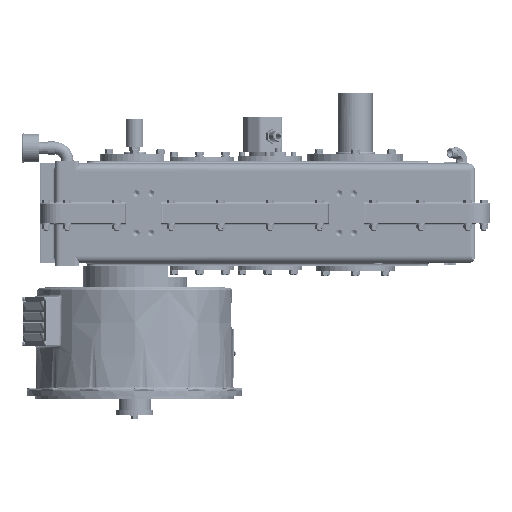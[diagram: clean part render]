
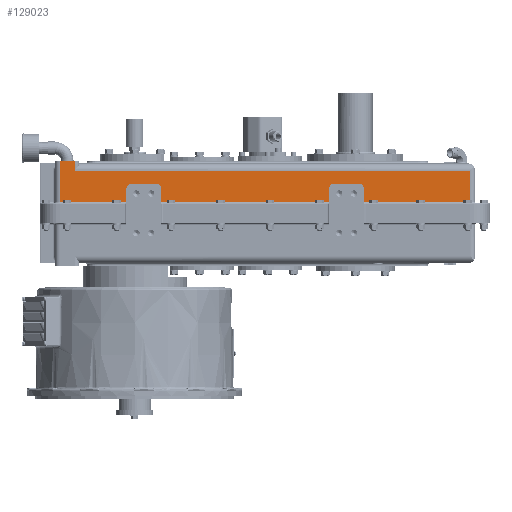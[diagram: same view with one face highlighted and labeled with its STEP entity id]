
A CAD part, left-side view. The second image highlights one B-rep face of the part: STEP entity #129023.
In plain terms, the highlighted planar face has unit normal (-1, 0, 0) as drawn and (1, 0, 0) by its records, which use the part's own axes.
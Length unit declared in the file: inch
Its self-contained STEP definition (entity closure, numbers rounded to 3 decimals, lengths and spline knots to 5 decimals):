
#384 = EDGE_LOOP ( 'NONE', ( #59105, #201633, #16348, #47771, #48266, #5329, #79999, #89331, #38875, #19079, #115549, #112892, #156235, #118846, #17127, #188760, #78254, #51868 ) ) ;
#1644 = CARTESIAN_POINT ( 'NONE',  ( 9.125, 28.25, -5.3 ) ) ;
#1942 = CARTESIAN_POINT ( 'NONE',  ( 9.125, 2.5, -1.18 ) ) ;
#2906 = EDGE_CURVE ( 'NONE', #36269, #20297, #12314, .T. ) ;
#4111 = VERTEX_POINT ( 'NONE', #45304 ) ;
#5329 = ORIENTED_EDGE ( 'NONE', *, *, #103892, .F. ) ;
#6883 = VERTEX_POINT ( 'NONE', #176033 ) ;
#7391 = DIRECTION ( 'NONE',  ( 0., -1., 0. ) ) ;
#7969 = CARTESIAN_POINT ( 'NONE',  ( 9.125, 19.5, -1.18 ) ) ;
#10279 = EDGE_CURVE ( 'NONE', #87629, #105983, #17246, .T. ) ;
#11208 = CARTESIAN_POINT ( 'NONE',  ( 9.125, -11.75, -4.302 ) ) ;
#11800 = DIRECTION ( 'NONE',  ( -1., 0., 0. ) ) ;
#12314 = LINE ( 'NONE', #106544, #191045 ) ;
#15383 = DIRECTION ( 'NONE',  ( 0., 0., -1. ) ) ;
#16348 = ORIENTED_EDGE ( 'NONE', *, *, #61049, .T. ) ;
#16395 = CARTESIAN_POINT ( 'NONE',  ( 9.125, 2.5, -1.18 ) ) ;
#17127 = ORIENTED_EDGE ( 'NONE', *, *, #144001, .F. ) ;
#17246 = LINE ( 'NONE', #79691, #142759 ) ;
#18007 = CIRCLE ( 'NONE', #145657, 0.5 ) ;
#18261 = DIRECTION ( 'NONE',  ( 0., -1., 0. ) ) ;
#19079 = ORIENTED_EDGE ( 'NONE', *, *, #115903, .T. ) ;
#20297 = VERTEX_POINT ( 'NONE', #167078 ) ;
#22760 = CARTESIAN_POINT ( 'NONE',  ( 9.125, 22.5, -3. ) ) ;
#23586 = VERTEX_POINT ( 'NONE', #129955 ) ;
#28077 = DIRECTION ( 'NONE',  ( 1., 0., 0. ) ) ;
#28992 = VECTOR ( 'NONE', #98142, 39.37008 ) ;
#35178 = CARTESIAN_POINT ( 'NONE',  ( 9.125, -0.5, -3. ) ) ;
#36269 = VERTEX_POINT ( 'NONE', #196166 ) ;
#36356 = DIRECTION ( 'NONE',  ( -1., 0., 0. ) ) ;
#37261 = EDGE_CURVE ( 'NONE', #112410, #76443, #133958, .T. ) ;
#38875 = ORIENTED_EDGE ( 'NONE', *, *, #125697, .T. ) ;
#40402 = DIRECTION ( 'NONE',  ( 0., 1., 0. ) ) ;
#42240 = DIRECTION ( 'NONE',  ( 0., 1., 0. ) ) ;
#42848 = VERTEX_POINT ( 'NONE', #51719 ) ;
#45280 = LINE ( 'NONE', #187770, #54015 ) ;
#45304 = CARTESIAN_POINT ( 'NONE',  ( 9.125, 28.25, -4.302 ) ) ;
#46179 = AXIS2_PLACEMENT_3D ( 'NONE', #138607, #60696, #42240 ) ;
#47771 = ORIENTED_EDGE ( 'NONE', *, *, #98878, .T. ) ;
#48266 = ORIENTED_EDGE ( 'NONE', *, *, #151525, .T. ) ;
#49407 = EDGE_CURVE ( 'NONE', #156334, #157165, #196264, .T. ) ;
#51064 = EDGE_CURVE ( 'NONE', #186577, #36269, #190786, .T. ) ;
#51719 = CARTESIAN_POINT ( 'NONE',  ( 9.125, -1., -2.5 ) ) ;
#51868 = ORIENTED_EDGE ( 'NONE', *, *, #159013, .T. ) ;
#53152 = CARTESIAN_POINT ( 'NONE',  ( 9.125, 29.75, -1.18 ) ) ;
#53409 = EDGE_CURVE ( 'NONE', #87629, #42848, #154585, .T. ) ;
#54015 = VECTOR ( 'NONE', #92444, 39.37008 ) ;
#56376 = VECTOR ( 'NONE', #162807, 39.37008 ) ;
#58077 = CARTESIAN_POINT ( 'NONE',  ( 9.125, 19.5, -1.18 ) ) ;
#58126 = CARTESIAN_POINT ( 'NONE',  ( 9.125, 19.5, -1.18 ) ) ;
#59105 = ORIENTED_EDGE ( 'NONE', *, *, #51064, .T. ) ;
#60696 = DIRECTION ( 'NONE',  ( -1., 0., 0. ) ) ;
#61027 = VECTOR ( 'NONE', #196497, 39.37008 ) ;
#61049 = EDGE_CURVE ( 'NONE', #20297, #6883, #82176, .T. ) ;
#62762 = EDGE_CURVE ( 'NONE', #67614, #105983, #179216, .T. ) ;
#67614 = VERTEX_POINT ( 'NONE', #11208 ) ;
#71189 = VECTOR ( 'NONE', #7391, 39.37008 ) ;
#72219 = CARTESIAN_POINT ( 'NONE',  ( 9.125, 20., -2.5 ) ) ;
#74967 = CARTESIAN_POINT ( 'NONE',  ( 9.125, 2., -3. ) ) ;
#76193 = CARTESIAN_POINT ( 'NONE',  ( 9.125, 20., -3. ) ) ;
#76443 = VERTEX_POINT ( 'NONE', #16395 ) ;
#78254 = ORIENTED_EDGE ( 'NONE', *, *, #49407, .T. ) ;
#79691 = CARTESIAN_POINT ( 'NONE',  ( 9.125, -1., -1.18 ) ) ;
#79999 = ORIENTED_EDGE ( 'NONE', *, *, #37261, .T. ) ;
#80363 = VECTOR ( 'NONE', #18261, 39.37008 ) ;
#82176 = CIRCLE ( 'NONE', #46179, 0.5 ) ;
#82296 = VECTOR ( 'NONE', #40402, 39.37008 ) ;
#83078 = DIRECTION ( 'NONE',  ( 0., -1., 0. ) ) ;
#86844 = CARTESIAN_POINT ( 'NONE',  ( 9.125, 28.25, -5.3 ) ) ;
#87629 = VERTEX_POINT ( 'NONE', #154084 ) ;
#89331 = ORIENTED_EDGE ( 'NONE', *, *, #194644, .T. ) ;
#89508 = LINE ( 'NONE', #121295, #110800 ) ;
#92444 = DIRECTION ( 'NONE',  ( 0., -1., 0. ) ) ;
#98142 = DIRECTION ( 'NONE',  ( 0., 0., -1. ) ) ;
#98878 = EDGE_CURVE ( 'NONE', #6883, #100283, #178532, .T. ) ;
#100283 = VERTEX_POINT ( 'NONE', #76193 ) ;
#100860 = CARTESIAN_POINT ( 'NONE',  ( 9.125, -0.5, -2.5 ) ) ;
#101865 = VECTOR ( 'NONE', #181155, 39.37008 ) ;
#103852 = FACE_OUTER_BOUND ( 'NONE', #384, .T. ) ;
#103892 = EDGE_CURVE ( 'NONE', #112410, #23586, #136029, .T. ) ;
#105983 = VERTEX_POINT ( 'NONE', #161673 ) ;
#106544 = CARTESIAN_POINT ( 'NONE',  ( 9.125, 23., -1.18 ) ) ;
#107284 = CIRCLE ( 'NONE', #169511, 0.5 ) ;
#107388 = DIRECTION ( 'NONE',  ( 0., 0., -1. ) ) ;
#110800 = VECTOR ( 'NONE', #152077, 39.37008 ) ;
#112410 = VERTEX_POINT ( 'NONE', #58126 ) ;
#112892 = ORIENTED_EDGE ( 'NONE', *, *, #53409, .F. ) ;
#115549 = ORIENTED_EDGE ( 'NONE', *, *, #147287, .T. ) ;
#115903 = EDGE_CURVE ( 'NONE', #148625, #149676, #174002, .T. ) ;
#118323 = CARTESIAN_POINT ( 'NONE',  ( 9.125, 28.25, -5.3 ) ) ;
#118846 = ORIENTED_EDGE ( 'NONE', *, *, #62762, .F. ) ;
#119255 = DIRECTION ( 'NONE',  ( 0., 1., 0. ) ) ;
#119354 = DIRECTION ( 'NONE',  ( 0., 0., -1. ) ) ;
#119733 = CARTESIAN_POINT ( 'NONE',  ( 9.125, -1., -1.18 ) ) ;
#121295 = CARTESIAN_POINT ( 'NONE',  ( 9.125, 29.75, -5.3 ) ) ;
#122864 = LINE ( 'NONE', #1942, #28992 ) ;
#123330 = PLANE ( 'NONE',  #136585 ) ;
#125697 = EDGE_CURVE ( 'NONE', #162469, #148625, #18007, .T. ) ;
#129023 = ADVANCED_FACE ( 'NONE', ( #103852 ), #123330, .T. ) ;
#129239 = CARTESIAN_POINT ( 'NONE',  ( 9.125, 29.75, -5.3 ) ) ;
#129955 = CARTESIAN_POINT ( 'NONE',  ( 9.125, 19.5, -2.5 ) ) ;
#130539 = AXIS2_PLACEMENT_3D ( 'NONE', #72219, #11800, #119354 ) ;
#133958 = LINE ( 'NONE', #7969, #61027 ) ;
#134823 = DIRECTION ( 'NONE',  ( 0., 1., 0. ) ) ;
#136029 = LINE ( 'NONE', #58077, #101865 ) ;
#136585 = AXIS2_PLACEMENT_3D ( 'NONE', #137703, #28077, #119255 ) ;
#137703 = CARTESIAN_POINT ( 'NONE',  ( 9.125, -11.75, -5.052 ) ) ;
#138607 = CARTESIAN_POINT ( 'NONE',  ( 9.125, 22.5, -2.5 ) ) ;
#142223 = CARTESIAN_POINT ( 'NONE',  ( 9.125, 2., -3. ) ) ;
#142759 = VECTOR ( 'NONE', #199726, 39.37008 ) ;
#143665 = CARTESIAN_POINT ( 'NONE',  ( 9.125, 2.5, -2.5 ) ) ;
#144001 = EDGE_CURVE ( 'NONE', #4111, #67614, #45280, .T. ) ;
#145657 = AXIS2_PLACEMENT_3D ( 'NONE', #150177, #166588, #134823 ) ;
#147287 = EDGE_CURVE ( 'NONE', #149676, #42848, #107284, .T. ) ;
#148625 = VERTEX_POINT ( 'NONE', #74967 ) ;
#149676 = VERTEX_POINT ( 'NONE', #35178 ) ;
#150177 = CARTESIAN_POINT ( 'NONE',  ( 9.125, 2., -2.5 ) ) ;
#150269 = CIRCLE ( 'NONE', #130539, 0.5 ) ;
#151525 = EDGE_CURVE ( 'NONE', #100283, #23586, #150269, .T. ) ;
#152077 = DIRECTION ( 'NONE',  ( 0., 0., 1. ) ) ;
#154084 = CARTESIAN_POINT ( 'NONE',  ( 9.125, -1., -1.18 ) ) ;
#154585 = LINE ( 'NONE', #119733, #165232 ) ;
#156235 = ORIENTED_EDGE ( 'NONE', *, *, #10279, .T. ) ;
#156334 = VERTEX_POINT ( 'NONE', #86844 ) ;
#157165 = VERTEX_POINT ( 'NONE', #129239 ) ;
#159013 = EDGE_CURVE ( 'NONE', #157165, #186577, #89508, .T. ) ;
#161673 = CARTESIAN_POINT ( 'NONE',  ( 9.125, -11.75, -1.18 ) ) ;
#161788 = CARTESIAN_POINT ( 'NONE',  ( 9.125, -11.75, -4.302 ) ) ;
#162469 = VERTEX_POINT ( 'NONE', #143665 ) ;
#162807 = DIRECTION ( 'NONE',  ( 0., 0., 1. ) ) ;
#163723 = VECTOR ( 'NONE', #190185, 39.37008 ) ;
#165232 = VECTOR ( 'NONE', #107388, 39.37008 ) ;
#166588 = DIRECTION ( 'NONE',  ( -1., 0., 0. ) ) ;
#167078 = CARTESIAN_POINT ( 'NONE',  ( 9.125, 23., -2.5 ) ) ;
#169511 = AXIS2_PLACEMENT_3D ( 'NONE', #100860, #36356, #192198 ) ;
#171257 = VECTOR ( 'NONE', #83078, 39.37008 ) ;
#174002 = LINE ( 'NONE', #142223, #80363 ) ;
#176033 = CARTESIAN_POINT ( 'NONE',  ( 9.125, 22.5, -3. ) ) ;
#178532 = LINE ( 'NONE', #22760, #71189 ) ;
#179216 = LINE ( 'NONE', #161788, #56376 ) ;
#180741 = EDGE_CURVE ( 'NONE', #156334, #4111, #189177, .T. ) ;
#181155 = DIRECTION ( 'NONE',  ( 0., 0., -1. ) ) ;
#186577 = VERTEX_POINT ( 'NONE', #53152 ) ;
#187770 = CARTESIAN_POINT ( 'NONE',  ( 9.125, 28.25, -4.302 ) ) ;
#188760 = ORIENTED_EDGE ( 'NONE', *, *, #180741, .F. ) ;
#189177 = LINE ( 'NONE', #1644, #163723 ) ;
#190185 = DIRECTION ( 'NONE',  ( 0., 0., 1. ) ) ;
#190786 = LINE ( 'NONE', #193820, #171257 ) ;
#191045 = VECTOR ( 'NONE', #15383, 39.37008 ) ;
#192198 = DIRECTION ( 'NONE',  ( 0., 0., -1. ) ) ;
#193820 = CARTESIAN_POINT ( 'NONE',  ( 9.125, 29.75, -1.18 ) ) ;
#194644 = EDGE_CURVE ( 'NONE', #76443, #162469, #122864, .T. ) ;
#196166 = CARTESIAN_POINT ( 'NONE',  ( 9.125, 23., -1.18 ) ) ;
#196264 = LINE ( 'NONE', #118323, #82296 ) ;
#196497 = DIRECTION ( 'NONE',  ( 0., -1., 0. ) ) ;
#199726 = DIRECTION ( 'NONE',  ( 0., -1., 0. ) ) ;
#201633 = ORIENTED_EDGE ( 'NONE', *, *, #2906, .T. ) ;
